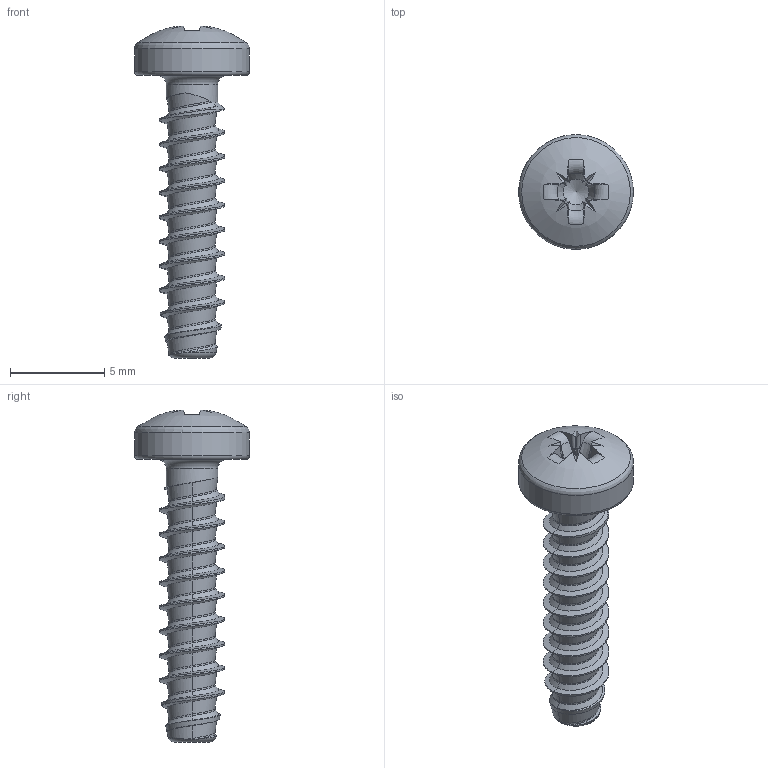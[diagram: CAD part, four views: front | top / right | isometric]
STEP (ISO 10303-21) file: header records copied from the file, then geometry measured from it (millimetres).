
FILE_DESCRIPTION(/* description */ (''),/* implementation_level */ '2;1');
FILE_NAME(/* name */ 'KN6032-STSplus-35x15-Z2.step',/* time_stamp */ '2017-10-10T15:55:56+02:00',/* author */ (''),/* organization */ (''),/* preprocessor_version */ 'ST-DEVELOPER v16',/* originating_system */ 'SIEMENS PLM Software NX 10.0',/* authorisation */ '');
FILE_SCHEMA (('AUTOMOTIVE_DESIGN { 1 0 10303 214 3 1 1 1 }'));
Length unit declared in the file: millimetre
Products named in the file (1): KN6032-STSplus-35x15-Z2
Bounding box: 6.1 x 6.1 x 17.63 mm (x, y, z)
Volume: 146.9 mm3; surface area: 278.8 mm2
Topology: 1 solids, 1 shells, 127 faces, 306 edges, 181 vertices
Faces by surface type: bspline 58, plane 42, cylinder 11, torus 8, cone 7, sphere 1
Full cylindrical faces by diameter (mm): 2.73 x1, 6.1 x1
Entity records: 6740 total; most frequent: CARTESIAN_POINT 4239, ORIENTED_EDGE 584, DIRECTION 364, EDGE_CURVE 292, VERTEX_POINT 176, EDGE_LOOP 135, ADVANCED_FACE 127, AXIS2_PLACEMENT_3D 125
